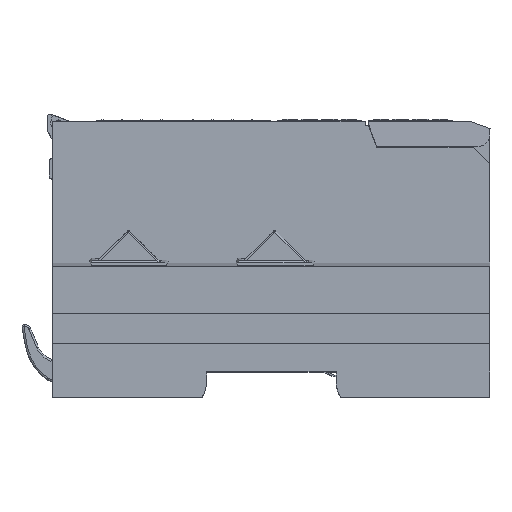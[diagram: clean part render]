
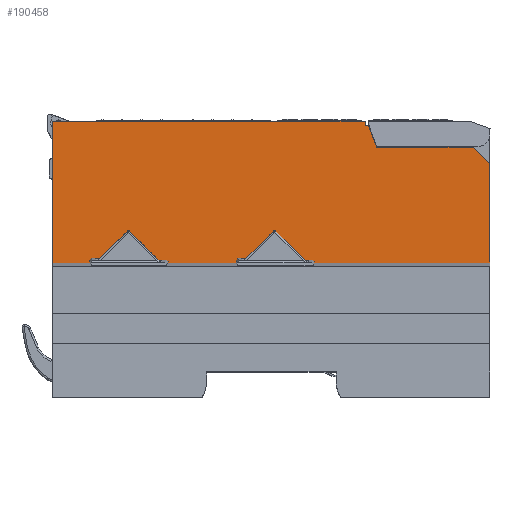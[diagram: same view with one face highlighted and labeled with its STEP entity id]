
A CAD part, top view. The second image highlights one B-rep face of the part: STEP entity #190458.
In plain terms, the highlighted planar face has unit normal (0, 0, 1).
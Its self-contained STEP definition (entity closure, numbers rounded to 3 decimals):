
#190295=AXIS2_PLACEMENT_3D('Plane Axis2P3D',#190292,#190293,#190294) ;
#185727=CARTESIAN_POINT('Vertex',(-59.75,13.675,27.)) ;
#185730=CARTESIAN_POINT('Line Origine',(-59.75,33.063,27.)) ;
#185734=CARTESIAN_POINT('Vertex',(-59.75,52.45,27.)) ;
#187337=CARTESIAN_POINT('Vertex',(59.75,40.759,27.)) ;
#187340=CARTESIAN_POINT('Line Origine',(59.75,27.217,27.)) ;
#187344=CARTESIAN_POINT('Vertex',(59.75,13.675,27.)) ;
#190215=CARTESIAN_POINT('Line Origine',(-18.925,13.675,27.)) ;
#190219=CARTESIAN_POINT('Vertex',(-28.229,13.675,27.)) ;
#190221=CARTESIAN_POINT('Vertex',(-9.621,13.675,27.)) ;
#190242=CARTESIAN_POINT('Vertex',(-49.621,13.675,27.)) ;
#190245=CARTESIAN_POINT('Line Origine',(-54.686,13.675,27.)) ;
#190250=CARTESIAN_POINT('Line Origine',(35.761,13.675,27.)) ;
#190254=CARTESIAN_POINT('Vertex',(11.771,13.675,27.)) ;
#190292=CARTESIAN_POINT('Axis2P3D Location',(0.,13.675,27.)) ;
#190297=CARTESIAN_POINT('Line Origine',(-9.621,14.084,27.)) ;
#190301=CARTESIAN_POINT('Vertex',(-9.621,14.492,27.)) ;
#190304=CARTESIAN_POINT('Line Origine',(-9.371,14.743,27.)) ;
#190308=CARTESIAN_POINT('Vertex',(-9.121,14.993,27.)) ;
#190311=CARTESIAN_POINT('Line Origine',(-0.273,14.993,27.)) ;
#190315=CARTESIAN_POINT('Vertex',(8.575,14.993,27.)) ;
#190318=CARTESIAN_POINT('Line Origine',(8.825,14.743,27.)) ;
#190322=CARTESIAN_POINT('Vertex',(9.075,14.493,27.)) ;
#190325=CARTESIAN_POINT('Line Origine',(10.173,14.493,27.)) ;
#190329=CARTESIAN_POINT('Vertex',(11.271,14.493,27.)) ;
#190332=CARTESIAN_POINT('Line Origine',(11.521,14.243,27.)) ;
#190336=CARTESIAN_POINT('Vertex',(11.771,13.992,27.)) ;
#190339=CARTESIAN_POINT('Line Origine',(11.771,13.834,27.)) ;
#190344=CARTESIAN_POINT('Line Origine',(57.454,43.054,27.)) ;
#190348=CARTESIAN_POINT('Vertex',(55.159,45.35,27.)) ;
#190351=CARTESIAN_POINT('Line Origine',(41.936,45.35,27.)) ;
#190355=CARTESIAN_POINT('Vertex',(28.714,45.35,27.)) ;
#190358=CARTESIAN_POINT('Line Origine',(27.622,48.35,27.)) ;
#190362=CARTESIAN_POINT('Vertex',(26.53,51.35,27.)) ;
#190365=CARTESIAN_POINT('Line Origine',(26.065,51.35,27.)) ;
#190369=CARTESIAN_POINT('Vertex',(25.6,51.35,27.)) ;
#190372=CARTESIAN_POINT('Line Origine',(25.6,51.9,27.)) ;
#190376=CARTESIAN_POINT('Vertex',(25.6,52.45,27.)) ;
#190379=CARTESIAN_POINT('Line Origine',(-17.075,52.45,27.)) ;
#190384=CARTESIAN_POINT('Line Origine',(-49.621,14.084,27.)) ;
#190388=CARTESIAN_POINT('Vertex',(-49.621,14.492,27.)) ;
#190391=CARTESIAN_POINT('Line Origine',(-49.371,14.743,27.)) ;
#190395=CARTESIAN_POINT('Vertex',(-49.121,14.993,27.)) ;
#190398=CARTESIAN_POINT('Line Origine',(-40.273,14.993,27.)) ;
#190402=CARTESIAN_POINT('Vertex',(-31.425,14.993,27.)) ;
#190405=CARTESIAN_POINT('Line Origine',(-31.175,14.743,27.)) ;
#190409=CARTESIAN_POINT('Vertex',(-30.925,14.493,27.)) ;
#190412=CARTESIAN_POINT('Line Origine',(-29.827,14.493,27.)) ;
#190416=CARTESIAN_POINT('Vertex',(-28.729,14.493,27.)) ;
#190419=CARTESIAN_POINT('Line Origine',(-28.479,14.243,27.)) ;
#190423=CARTESIAN_POINT('Vertex',(-28.229,13.992,27.)) ;
#190426=CARTESIAN_POINT('Line Origine',(-28.229,13.834,27.)) ;
#185731=DIRECTION('Vector Direction',(0.,1.,0.)) ;
#187341=DIRECTION('Vector Direction',(0.,1.,0.)) ;
#190216=DIRECTION('Vector Direction',(1.,0.,0.)) ;
#190246=DIRECTION('Vector Direction',(1.,0.,0.)) ;
#190251=DIRECTION('Vector Direction',(1.,0.,0.)) ;
#190293=DIRECTION('Axis2P3D Direction',(0.,0.,-1.)) ;
#190294=DIRECTION('Axis2P3D XDirection',(0.,1.,0.)) ;
#190298=DIRECTION('Vector Direction',(0.,1.,0.)) ;
#190305=DIRECTION('Vector Direction',(0.707,0.707,0.)) ;
#190312=DIRECTION('Vector Direction',(-1.,0.,0.)) ;
#190319=DIRECTION('Vector Direction',(-0.707,0.707,0.)) ;
#190326=DIRECTION('Vector Direction',(-1.,0.,0.)) ;
#190333=DIRECTION('Vector Direction',(-0.707,0.707,0.)) ;
#190340=DIRECTION('Vector Direction',(0.,1.,0.)) ;
#190345=DIRECTION('Vector Direction',(0.707,-0.707,0.)) ;
#190352=DIRECTION('Vector Direction',(-1.,0.,0.)) ;
#190359=DIRECTION('Vector Direction',(0.342,-0.94,0.)) ;
#190366=DIRECTION('Vector Direction',(1.,0.,0.)) ;
#190373=DIRECTION('Vector Direction',(0.,1.,0.)) ;
#190380=DIRECTION('Vector Direction',(1.,0.,0.)) ;
#190385=DIRECTION('Vector Direction',(0.,1.,0.)) ;
#190392=DIRECTION('Vector Direction',(0.707,0.707,0.)) ;
#190399=DIRECTION('Vector Direction',(-1.,0.,0.)) ;
#190406=DIRECTION('Vector Direction',(-0.707,0.707,0.)) ;
#190413=DIRECTION('Vector Direction',(-1.,0.,0.)) ;
#190420=DIRECTION('Vector Direction',(-0.707,0.707,0.)) ;
#190427=DIRECTION('Vector Direction',(0.,1.,0.)) ;
#185732=VECTOR('Line Direction',#185731,1.) ;
#187342=VECTOR('Line Direction',#187341,1.) ;
#190217=VECTOR('Line Direction',#190216,1.) ;
#190247=VECTOR('Line Direction',#190246,1.) ;
#190252=VECTOR('Line Direction',#190251,1.) ;
#190299=VECTOR('Line Direction',#190298,1.) ;
#190306=VECTOR('Line Direction',#190305,1.) ;
#190313=VECTOR('Line Direction',#190312,1.) ;
#190320=VECTOR('Line Direction',#190319,1.) ;
#190327=VECTOR('Line Direction',#190326,1.) ;
#190334=VECTOR('Line Direction',#190333,1.) ;
#190341=VECTOR('Line Direction',#190340,1.) ;
#190346=VECTOR('Line Direction',#190345,1.) ;
#190353=VECTOR('Line Direction',#190352,1.) ;
#190360=VECTOR('Line Direction',#190359,1.) ;
#190367=VECTOR('Line Direction',#190366,1.) ;
#190374=VECTOR('Line Direction',#190373,1.) ;
#190381=VECTOR('Line Direction',#190380,1.) ;
#190386=VECTOR('Line Direction',#190385,1.) ;
#190393=VECTOR('Line Direction',#190392,1.) ;
#190400=VECTOR('Line Direction',#190399,1.) ;
#190407=VECTOR('Line Direction',#190406,1.) ;
#190414=VECTOR('Line Direction',#190413,1.) ;
#190421=VECTOR('Line Direction',#190420,1.) ;
#190428=VECTOR('Line Direction',#190427,1.) ;
#190432=ORIENTED_EDGE('',*,*,#190303,.F.) ;
#190433=ORIENTED_EDGE('',*,*,#190310,.F.) ;
#190434=ORIENTED_EDGE('',*,*,#190317,.T.) ;
#190435=ORIENTED_EDGE('',*,*,#190324,.F.) ;
#190436=ORIENTED_EDGE('',*,*,#190331,.F.) ;
#190437=ORIENTED_EDGE('',*,*,#190338,.F.) ;
#190438=ORIENTED_EDGE('',*,*,#190343,.T.) ;
#190439=ORIENTED_EDGE('',*,*,#190256,.T.) ;
#190440=ORIENTED_EDGE('',*,*,#187346,.F.) ;
#190441=ORIENTED_EDGE('',*,*,#190350,.F.) ;
#190442=ORIENTED_EDGE('',*,*,#190357,.T.) ;
#190443=ORIENTED_EDGE('',*,*,#190364,.T.) ;
#190444=ORIENTED_EDGE('',*,*,#190371,.T.) ;
#190445=ORIENTED_EDGE('',*,*,#190378,.F.) ;
#190446=ORIENTED_EDGE('',*,*,#190383,.F.) ;
#190447=ORIENTED_EDGE('',*,*,#185736,.T.) ;
#190448=ORIENTED_EDGE('',*,*,#190249,.T.) ;
#190449=ORIENTED_EDGE('',*,*,#190390,.F.) ;
#190450=ORIENTED_EDGE('',*,*,#190397,.F.) ;
#190451=ORIENTED_EDGE('',*,*,#190404,.T.) ;
#190452=ORIENTED_EDGE('',*,*,#190411,.F.) ;
#190453=ORIENTED_EDGE('',*,*,#190418,.F.) ;
#190454=ORIENTED_EDGE('',*,*,#190425,.F.) ;
#190455=ORIENTED_EDGE('',*,*,#190430,.T.) ;
#190456=ORIENTED_EDGE('',*,*,#190223,.T.) ;
#190458=ADVANCED_FACE('Hauptkoerper',(#190457),#190296,.F.) ;
#185736=EDGE_CURVE('',#185735,#185728,#185733,.F.) ;
#187346=EDGE_CURVE('',#187338,#187345,#187343,.F.) ;
#190223=EDGE_CURVE('',#190220,#190222,#190218,.T.) ;
#190249=EDGE_CURVE('',#185728,#190243,#190248,.T.) ;
#190256=EDGE_CURVE('',#190255,#187345,#190253,.T.) ;
#190303=EDGE_CURVE('',#190302,#190222,#190300,.F.) ;
#190310=EDGE_CURVE('',#190309,#190302,#190307,.F.) ;
#190317=EDGE_CURVE('',#190309,#190316,#190314,.F.) ;
#190324=EDGE_CURVE('',#190323,#190316,#190321,.T.) ;
#190331=EDGE_CURVE('',#190330,#190323,#190328,.T.) ;
#190338=EDGE_CURVE('',#190337,#190330,#190335,.T.) ;
#190343=EDGE_CURVE('',#190337,#190255,#190342,.F.) ;
#190350=EDGE_CURVE('',#190349,#187338,#190347,.T.) ;
#190357=EDGE_CURVE('',#190349,#190356,#190354,.T.) ;
#190364=EDGE_CURVE('',#190356,#190363,#190361,.F.) ;
#190371=EDGE_CURVE('',#190363,#190370,#190368,.F.) ;
#190378=EDGE_CURVE('',#190377,#190370,#190375,.F.) ;
#190383=EDGE_CURVE('',#185735,#190377,#190382,.T.) ;
#190390=EDGE_CURVE('',#190389,#190243,#190387,.F.) ;
#190397=EDGE_CURVE('',#190396,#190389,#190394,.F.) ;
#190404=EDGE_CURVE('',#190396,#190403,#190401,.F.) ;
#190411=EDGE_CURVE('',#190410,#190403,#190408,.T.) ;
#190418=EDGE_CURVE('',#190417,#190410,#190415,.T.) ;
#190425=EDGE_CURVE('',#190424,#190417,#190422,.T.) ;
#190430=EDGE_CURVE('',#190424,#190220,#190429,.F.) ;
#190431=EDGE_LOOP('',(#190432,#190433,#190434,#190435,#190436,#190437,#190438,#190439,#190440,#190441,#190442,#190443,#190444,#190445,#190446,#190447,#190448,#190449,#190450,#190451,#190452,#190453,#190454,#190455,#190456)) ;
#190457=FACE_OUTER_BOUND('',#190431,.T.) ;
#185733=LINE('Line',#185730,#185732) ;
#187343=LINE('Line',#187340,#187342) ;
#190218=LINE('Line',#190215,#190217) ;
#190248=LINE('Line',#190245,#190247) ;
#190253=LINE('Line',#190250,#190252) ;
#190300=LINE('Line',#190297,#190299) ;
#190307=LINE('Line',#190304,#190306) ;
#190314=LINE('Line',#190311,#190313) ;
#190321=LINE('Line',#190318,#190320) ;
#190328=LINE('Line',#190325,#190327) ;
#190335=LINE('Line',#190332,#190334) ;
#190342=LINE('Line',#190339,#190341) ;
#190347=LINE('Line',#190344,#190346) ;
#190354=LINE('Line',#190351,#190353) ;
#190361=LINE('Line',#190358,#190360) ;
#190368=LINE('Line',#190365,#190367) ;
#190375=LINE('Line',#190372,#190374) ;
#190382=LINE('Line',#190379,#190381) ;
#190387=LINE('Line',#190384,#190386) ;
#190394=LINE('Line',#190391,#190393) ;
#190401=LINE('Line',#190398,#190400) ;
#190408=LINE('Line',#190405,#190407) ;
#190415=LINE('Line',#190412,#190414) ;
#190422=LINE('Line',#190419,#190421) ;
#190429=LINE('Line',#190426,#190428) ;
#190296=PLANE('',#190295) ;
#185728=VERTEX_POINT('',#185727) ;
#185735=VERTEX_POINT('',#185734) ;
#187338=VERTEX_POINT('',#187337) ;
#187345=VERTEX_POINT('',#187344) ;
#190220=VERTEX_POINT('',#190219) ;
#190222=VERTEX_POINT('',#190221) ;
#190243=VERTEX_POINT('',#190242) ;
#190255=VERTEX_POINT('',#190254) ;
#190302=VERTEX_POINT('',#190301) ;
#190309=VERTEX_POINT('',#190308) ;
#190316=VERTEX_POINT('',#190315) ;
#190323=VERTEX_POINT('',#190322) ;
#190330=VERTEX_POINT('',#190329) ;
#190337=VERTEX_POINT('',#190336) ;
#190349=VERTEX_POINT('',#190348) ;
#190356=VERTEX_POINT('',#190355) ;
#190363=VERTEX_POINT('',#190362) ;
#190370=VERTEX_POINT('',#190369) ;
#190377=VERTEX_POINT('',#190376) ;
#190389=VERTEX_POINT('',#190388) ;
#190396=VERTEX_POINT('',#190395) ;
#190403=VERTEX_POINT('',#190402) ;
#190410=VERTEX_POINT('',#190409) ;
#190417=VERTEX_POINT('',#190416) ;
#190424=VERTEX_POINT('',#190423) ;
